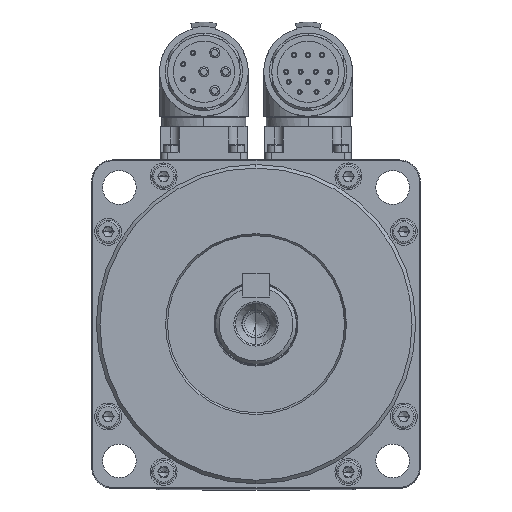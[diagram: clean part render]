
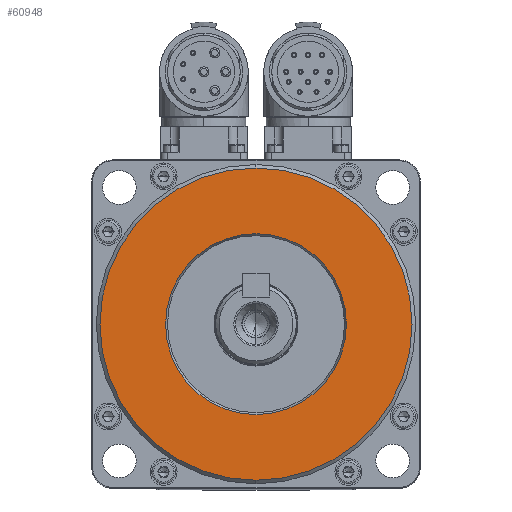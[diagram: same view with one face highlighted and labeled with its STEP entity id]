
A CAD part, top view. The second image highlights one B-rep face of the part: STEP entity #60948.
In plain terms, the highlighted planar face has unit normal (0, 0, 1).
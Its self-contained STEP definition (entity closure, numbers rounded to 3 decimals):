
#144 = EDGE_CURVE ( 'NONE', #10725, #42435, #6306, .T. ) ;
#1441 = CARTESIAN_POINT ( 'NONE',  ( 0., 26.908, 75.864 ) ) ;
#2239 = VERTEX_POINT ( 'NONE', #43717 ) ;
#5876 = AXIS2_PLACEMENT_3D ( 'NONE', #56418, #62052, #21927 ) ;
#6281 = FACE_OUTER_BOUND ( 'NONE', #34251, .T. ) ;
#6306 = CIRCLE ( 'NONE', #31552, 46.433 ) ;
#7730 = CARTESIAN_POINT ( 'NONE',  ( 0., -46.433, 75.864 ) ) ;
#8044 = ORIENTED_EDGE ( 'NONE', *, *, #22060, .T. ) ;
#9031 = CIRCLE ( 'NONE', #5876, 46.433 ) ;
#9412 = DIRECTION ( 'NONE',  ( 0., 1., 0. ) ) ;
#9843 = CARTESIAN_POINT ( 'NONE',  ( 0., 46.433, 75.864 ) ) ;
#10725 = VERTEX_POINT ( 'NONE', #9843 ) ;
#11813 = EDGE_CURVE ( 'NONE', #42435, #10725, #9031, .T. ) ;
#13601 = CIRCLE ( 'NONE', #37430, 26.908 ) ;
#13843 = CARTESIAN_POINT ( 'NONE',  ( 0., 0., 75.864 ) ) ;
#17931 = ORIENTED_EDGE ( 'NONE', *, *, #49054, .T. ) ;
#18535 = DIRECTION ( 'NONE',  ( 0., 1., 0. ) ) ;
#21927 = DIRECTION ( 'NONE',  ( 0., 1., 0. ) ) ;
#22060 = EDGE_CURVE ( 'NONE', #45888, #2239, #45713, .T. ) ;
#22606 = DIRECTION ( 'NONE',  ( 0., 0., 1. ) ) ;
#28086 = DIRECTION ( 'NONE',  ( 0., 0., -1. ) ) ;
#31552 = AXIS2_PLACEMENT_3D ( 'NONE', #32629, #22606, #63373 ) ;
#32629 = CARTESIAN_POINT ( 'NONE',  ( 0., 0., 75.864 ) ) ;
#33527 = DIRECTION ( 'NONE',  ( 0., 1., 0. ) ) ;
#34251 = EDGE_LOOP ( 'NONE', ( #34305, #57695 ) ) ;
#34305 = ORIENTED_EDGE ( 'NONE', *, *, #144, .T. ) ;
#34962 = PLANE ( 'NONE',  #39003 ) ;
#37430 = AXIS2_PLACEMENT_3D ( 'NONE', #42977, #43414, #18535 ) ;
#39003 = AXIS2_PLACEMENT_3D ( 'NONE', #45245, #54641, #9412 ) ;
#42154 = EDGE_LOOP ( 'NONE', ( #17931, #8044 ) ) ;
#42435 = VERTEX_POINT ( 'NONE', #7730 ) ;
#42905 = AXIS2_PLACEMENT_3D ( 'NONE', #13843, #28086, #33527 ) ;
#42977 = CARTESIAN_POINT ( 'NONE',  ( 0., 0., 75.864 ) ) ;
#43414 = DIRECTION ( 'NONE',  ( 0., 0., -1. ) ) ;
#43717 = CARTESIAN_POINT ( 'NONE',  ( 0., -26.908, 75.864 ) ) ;
#45245 = CARTESIAN_POINT ( 'NONE',  ( 0., 0., 75.864 ) ) ;
#45713 = CIRCLE ( 'NONE', #42905, 26.908 ) ;
#45888 = VERTEX_POINT ( 'NONE', #1441 ) ;
#49054 = EDGE_CURVE ( 'NONE', #2239, #45888, #13601, .T. ) ;
#54641 = DIRECTION ( 'NONE',  ( 0., 0., -1. ) ) ;
#56371 = FACE_BOUND ( 'NONE', #42154, .T. ) ;
#56418 = CARTESIAN_POINT ( 'NONE',  ( 0., 0., 75.864 ) ) ;
#57695 = ORIENTED_EDGE ( 'NONE', *, *, #11813, .T. ) ;
#60948 = ADVANCED_FACE ( 'NONE', ( #6281, #56371 ), #34962, .F. ) ;
#62052 = DIRECTION ( 'NONE',  ( 0., 0., 1. ) ) ;
#63373 = DIRECTION ( 'NONE',  ( 0., 1., 0. ) ) ;
